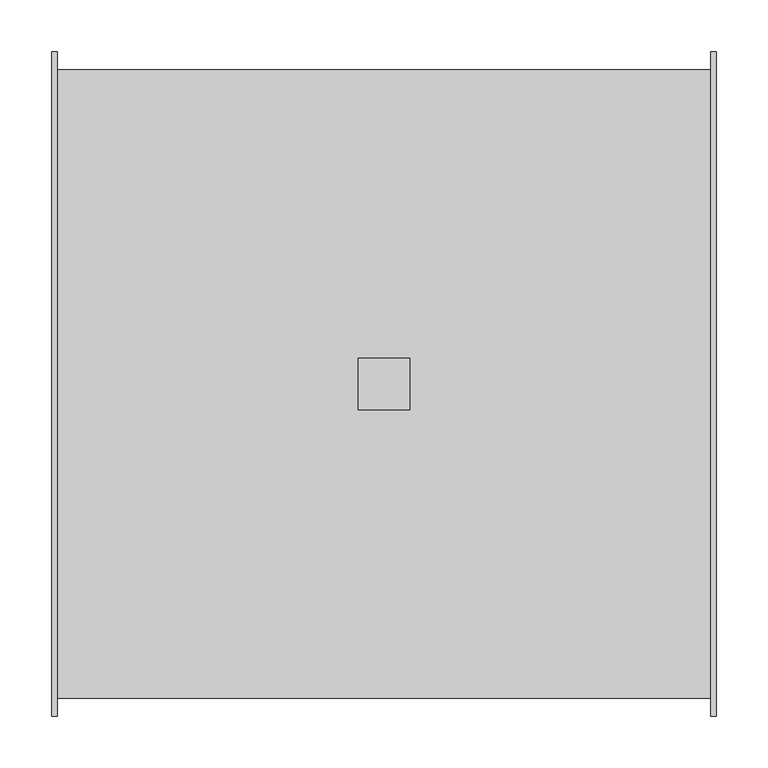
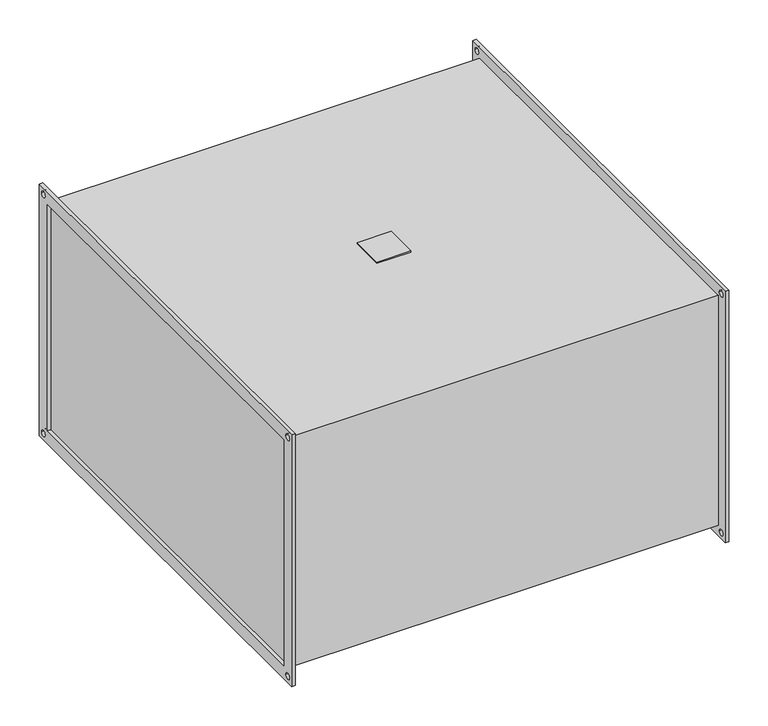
"""IFC4 building model written with IfcOpenShell, lengths in millimetres: damper geometry, KORF_Фильтр_Карманный_FKR : FKR 60-35  EU3."""

from ifc_helpers import new_model, si_unit, point, frame, frame_2d, origin, place, context, project, spatial, polyline, circle_curve, trimmed, segment, composite_curve, outline, extrude, source, transform, mapped, element, save


def damper_6524d4ae(model_context):
    return source(origin(), model_context, "Body", "SweptSolid", [
        extrude(outline(polyline([(295.0, -25.0), (295.0, 25.0), (345.0, 25.0), (345.0, -25.0), (295.0, -25.0)])), frame((0.0, 0.0, 178.0), z_axis=(0.0, 0.0, 1.0), x_axis=(1.0, 0.0, 0.0)), (0.0, 0.0, 1.0), 2.0),
        extrude(outline(polyline([(-320.0, 195.0), (320.0, 195.0), (320.0, -195.0), (-320.0, -195.0), (-320.0, 195.0)]), holes=[polyline([(-300.0, 175.0), (-300.0, -175.0), (300.0, -175.0), (300.0, 175.0), (-300.0, 175.0)]), composite_curve([segment(trimmed(circle_curve(frame_2d((310.0, 185.0)), 4.5), [point((305.5, 185.0))], [point((314.5, 185.0))], True, "CARTESIAN"), True, "CONTINUOUS"), segment(trimmed(circle_curve(frame_2d((310.0, 185.0)), 4.5), [point((314.5, 185.0))], [point((305.5, 185.0))], True, "CARTESIAN"), True, "CONTINUOUS")], self_intersect=False), composite_curve([segment(trimmed(circle_curve(frame_2d((-310.0, 185.0)), 4.5), [point((-314.5, 185.0))], [point((-305.5, 185.0))], True, "CARTESIAN"), True, "CONTINUOUS"), segment(trimmed(circle_curve(frame_2d((-310.0, 185.0)), 4.5), [point((-305.5, 185.0))], [point((-314.5, 185.0))], True, "CARTESIAN"), True, "CONTINUOUS")], self_intersect=False), composite_curve([segment(trimmed(circle_curve(frame_2d((-310.0, -185.0)), 4.5), [point((-314.5, -185.0))], [point((-305.5, -185.0))], True, "CARTESIAN"), True, "CONTINUOUS"), segment(trimmed(circle_curve(frame_2d((-310.0, -185.0)), 4.5), [point((-305.5, -185.0))], [point((-314.5, -185.0))], True, "CARTESIAN"), True, "CONTINUOUS")], self_intersect=False), composite_curve([segment(trimmed(circle_curve(frame_2d((310.0, -185.0)), 4.5), [point((305.5, -185.0))], [point((314.5, -185.0))], True, "CARTESIAN"), True, "CONTINUOUS"), segment(trimmed(circle_curve(frame_2d((310.0, -185.0)), 4.5), [point((314.5, -185.0))], [point((305.5, -185.0))], True, "CARTESIAN"), True, "CONTINUOUS")], self_intersect=False)]), frame((635.0, 0.0, 0.0), z_axis=(1.0, 0.0, 0.0), x_axis=(0.0, 1.0, 0.0)), (0.0, 0.0, 1.0), 5.0),
        extrude(outline(polyline([(-320.0, 195.0), (320.0, 195.0), (320.0, -195.0), (-320.0, -195.0), (-320.0, 195.0)]), holes=[polyline([(-300.0, 175.0), (-300.0, -175.0), (300.0, -175.0), (300.0, 175.0), (-300.0, 175.0)]), composite_curve([segment(trimmed(circle_curve(frame_2d((310.0, 185.0)), 4.5), [point((305.5, 185.0))], [point((314.5, 185.0))], True, "CARTESIAN"), True, "CONTINUOUS"), segment(trimmed(circle_curve(frame_2d((310.0, 185.0)), 4.5), [point((314.5, 185.0))], [point((305.5, 185.0))], True, "CARTESIAN"), True, "CONTINUOUS")], self_intersect=False), composite_curve([segment(trimmed(circle_curve(frame_2d((-310.0, 185.0)), 4.5), [point((-314.5, 185.0))], [point((-305.5, 185.0))], True, "CARTESIAN"), True, "CONTINUOUS"), segment(trimmed(circle_curve(frame_2d((-310.0, 185.0)), 4.5), [point((-305.5, 185.0))], [point((-314.5, 185.0))], True, "CARTESIAN"), True, "CONTINUOUS")], self_intersect=False), composite_curve([segment(trimmed(circle_curve(frame_2d((-310.0, -185.0)), 4.5), [point((-314.5, -185.0))], [point((-305.5, -185.0))], True, "CARTESIAN"), True, "CONTINUOUS"), segment(trimmed(circle_curve(frame_2d((-310.0, -185.0)), 4.5), [point((-305.5, -185.0))], [point((-314.5, -185.0))], True, "CARTESIAN"), True, "CONTINUOUS")], self_intersect=False), composite_curve([segment(trimmed(circle_curve(frame_2d((310.0, -185.0)), 4.5), [point((305.5, -185.0))], [point((314.5, -185.0))], True, "CARTESIAN"), True, "CONTINUOUS"), segment(trimmed(circle_curve(frame_2d((310.0, -185.0)), 4.5), [point((314.5, -185.0))], [point((305.5, -185.0))], True, "CARTESIAN"), True, "CONTINUOUS")], self_intersect=False)]), frame((0.0, 0.0, 0.0), z_axis=(1.0, 0.0, 0.0), x_axis=(0.0, 1.0, 0.0)), (0.0, 0.0, 1.0), 5.0),
        extrude(outline(polyline([(635.0, 303.0), (635.0, -303.0), (5.0, -303.0), (5.0, 303.0), (635.0, 303.0)])), frame((0.0, 0.0, -178.0), z_axis=(0.0, 0.0, 1.0), x_axis=(1.0, 0.0, 0.0)), (0.0, 0.0, 1.0), 356.0),
    ])


if __name__ == "__main__":
    model = new_model("IFC4")
    model_context = context("Model", 3, world=origin())
    ifc_project = project(units=[si_unit("LENGTHUNIT", "METRE", prefix="MILLI")], contexts=[model_context])
    site = spatial("IfcSite", under=ifc_project)
    building = spatial("IfcBuilding", under=site)
    placement = place(None, origin())
    damper_shape = damper_6524d4ae(model_context)
    element("IfcDamper", 1, ObjectType="KORF_Фильтр_Карманный_FKR : FKR 60-35  EU3", at=placement, inside=building, context=model_context, shape_type="MappedRepresentation", body=[
        mapped(damper_shape, transform((0.0, 0.0, 0.0), x_axis=(1.0, 0.0, 0.0), y_axis=(0.0, 1.0, 0.0), z_axis=(0.0, 0.0, 1.0))),
    ])
    save(model, "model.ifc")
